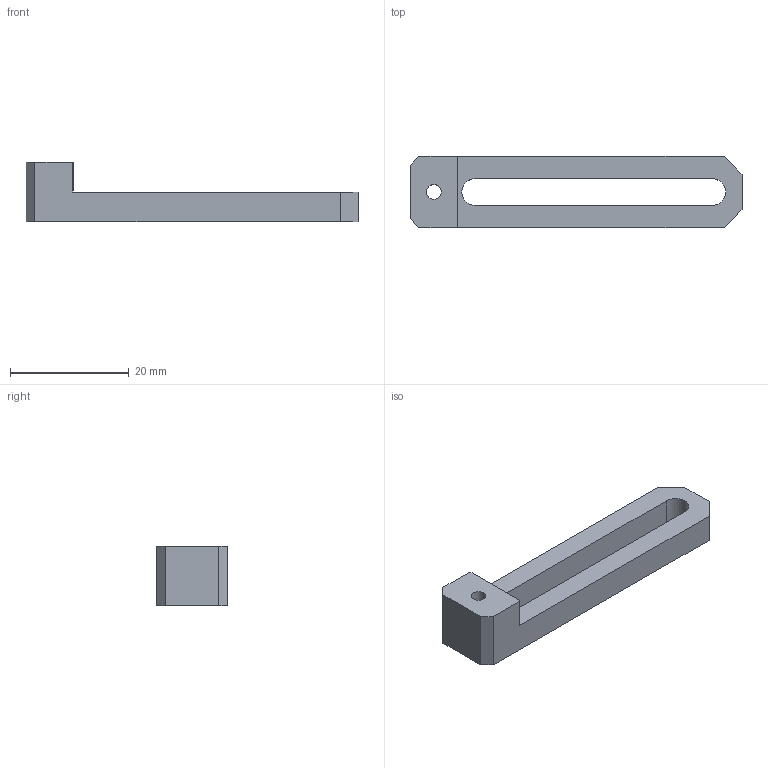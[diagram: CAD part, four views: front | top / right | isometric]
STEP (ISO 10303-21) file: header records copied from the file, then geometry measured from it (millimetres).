
FILE_DESCRIPTION (( 'STEP AP214' ), '1' );
FILE_NAME ('SCF1-40M3.STEP', '2019-11-06T07:36:10', ( '微软用户' ), ( '微软中国' ), 'SwSTEP 2.0', 'SolidWorks 2016', '' );
FILE_SCHEMA (( 'AUTOMOTIVE_DESIGN' ));
Length unit declared in the file: millimetre
Products named in the file (1): SCF1-40M3
Bounding box: 56 x 12 x 10 mm (x, y, z)
Volume: 2743.7 mm3; surface area: 2312.8 mm2
Topology: 1 solids, 1 shells, 20 faces, 54 edges, 36 vertices
Faces by surface type: plane 16, cylinder 4
Entity records: 668 total; most frequent: CARTESIAN_POINT 111, ORIENTED_EDGE 108, DIRECTION 104, EDGE_CURVE 54, VECTOR 46, LINE 46, VERTEX_POINT 36, AXIS2_PLACEMENT_3D 29
